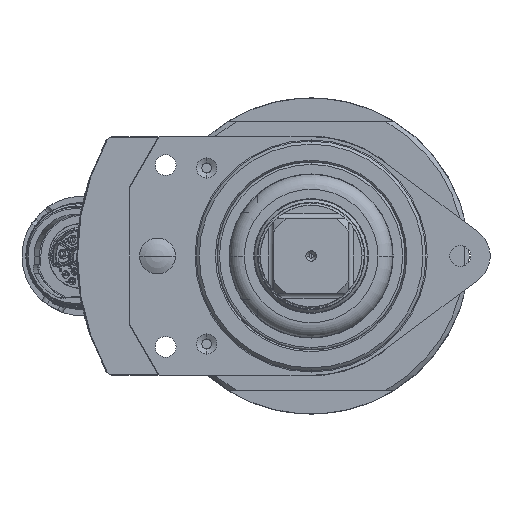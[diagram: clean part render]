
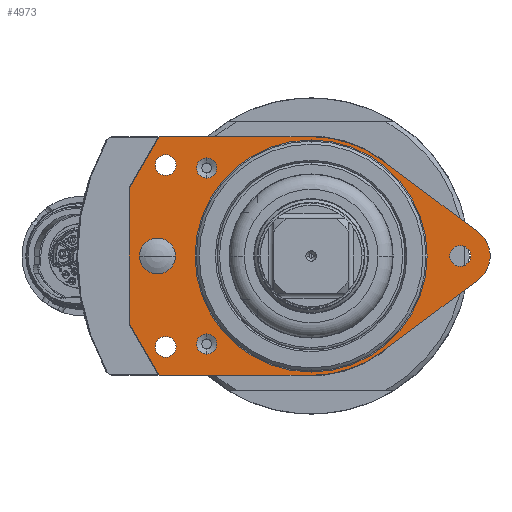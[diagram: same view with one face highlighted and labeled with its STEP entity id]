
A CAD part, left-side view. The second image highlights one B-rep face of the part: STEP entity #4973.
In plain terms, the highlighted planar face has unit normal (-1, 0, 0).
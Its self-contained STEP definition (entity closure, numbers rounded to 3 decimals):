
#1660=DIRECTION('',(0.,0.,1.));
#1661=VECTOR('',#1660,45.);
#1662=CARTESIAN_POINT('',(13.,61.,-22.5));
#1663=LINE('',#1662,#1661);
#1664=DIRECTION('',(0.,0.5,-0.866));
#1665=VECTOR('',#1664,20.207);
#1666=CARTESIAN_POINT('',(13.,50.896,40.));
#1667=LINE('',#1666,#1665);
#1668=DIRECTION('',(0.,1.,0.));
#1669=VECTOR('',#1668,50.896);
#1670=CARTESIAN_POINT('',(13.,0.,40.));
#1671=LINE('',#1670,#1669);
#1672=CARTESIAN_POINT('',(13.,0.,0.));
#1673=DIRECTION('',(-1.,0.,0.));
#1674=DIRECTION('',(0.,-0.6,0.8));
#1675=AXIS2_PLACEMENT_3D('',#1672,#1673,#1674);
#1677=DIRECTION('',(0.,0.8,0.6));
#1678=VECTOR('',#1677,40.);
#1679=CARTESIAN_POINT('',(13.,-56.,8.));
#1680=LINE('',#1679,#1678);
#1681=CARTESIAN_POINT('',(13.,-50.,0.));
#1682=DIRECTION('',(-1.,0.,0.));
#1683=DIRECTION('',(0.,-0.6,-0.8));
#1684=AXIS2_PLACEMENT_3D('',#1681,#1682,#1683);
#1686=DIRECTION('',(0.,-0.8,0.6));
#1687=VECTOR('',#1686,40.);
#1688=CARTESIAN_POINT('',(13.,-24.,-32.));
#1689=LINE('',#1688,#1687);
#1690=CARTESIAN_POINT('',(13.,0.,0.));
#1691=DIRECTION('',(-1.,0.,0.));
#1692=DIRECTION('',(0.,0.,-1.));
#1693=AXIS2_PLACEMENT_3D('',#1690,#1691,#1692);
#1695=DIRECTION('',(0.,-1.,0.));
#1696=VECTOR('',#1695,50.896);
#1697=CARTESIAN_POINT('',(13.,50.896,-40.));
#1698=LINE('',#1697,#1696);
#1699=DIRECTION('',(0.,-0.5,-0.866));
#1700=VECTOR('',#1699,20.207);
#1701=CARTESIAN_POINT('',(13.,61.,-22.5));
#1702=LINE('',#1701,#1700);
#1703=CARTESIAN_POINT('',(13.,-50.,0.));
#1704=DIRECTION('',(-1.,0.,0.));
#1705=DIRECTION('',(0.,0.,-1.));
#1706=AXIS2_PLACEMENT_3D('',#1703,#1704,#1705);
#1708=CARTESIAN_POINT('',(13.,-50.,0.));
#1709=DIRECTION('',(-1.,0.,0.));
#1710=DIRECTION('',(0.,0.,1.));
#1711=AXIS2_PLACEMENT_3D('',#1708,#1709,#1710);
#1713=CARTESIAN_POINT('',(13.,48.763,30.47));
#1714=DIRECTION('',(-1.,0.,0.));
#1715=DIRECTION('',(0.,0.,-1.));
#1716=AXIS2_PLACEMENT_3D('',#1713,#1714,#1715);
#1718=CARTESIAN_POINT('',(13.,48.763,30.47));
#1719=DIRECTION('',(-1.,0.,0.));
#1720=DIRECTION('',(0.,0.,1.));
#1721=AXIS2_PLACEMENT_3D('',#1718,#1719,#1720);
#1723=CARTESIAN_POINT('',(13.,48.763,-30.47));
#1724=DIRECTION('',(-1.,0.,0.));
#1725=DIRECTION('',(0.,0.,-1.));
#1726=AXIS2_PLACEMENT_3D('',#1723,#1724,#1725);
#1728=CARTESIAN_POINT('',(13.,48.763,-30.47));
#1729=DIRECTION('',(-1.,0.,0.));
#1730=DIRECTION('',(0.,0.,1.));
#1731=AXIS2_PLACEMENT_3D('',#1728,#1729,#1730);
#1733=CARTESIAN_POINT('',(13.,35.,-29.5));
#1734=DIRECTION('',(-1.,0.,0.));
#1735=DIRECTION('',(0.,0.,-1.));
#1736=AXIS2_PLACEMENT_3D('',#1733,#1734,#1735);
#1738=CARTESIAN_POINT('',(13.,35.,-29.5));
#1739=DIRECTION('',(-1.,0.,0.));
#1740=DIRECTION('',(0.,0.,1.));
#1741=AXIS2_PLACEMENT_3D('',#1738,#1739,#1740);
#1743=CARTESIAN_POINT('',(13.,35.,29.5));
#1744=DIRECTION('',(-1.,0.,0.));
#1745=DIRECTION('',(0.,0.,-1.));
#1746=AXIS2_PLACEMENT_3D('',#1743,#1744,#1745);
#1748=CARTESIAN_POINT('',(13.,35.,29.5));
#1749=DIRECTION('',(-1.,0.,0.));
#1750=DIRECTION('',(0.,0.,1.));
#1751=AXIS2_PLACEMENT_3D('',#1748,#1749,#1750);
#1753=CARTESIAN_POINT('',(13.,51.5,0.));
#1754=DIRECTION('',(-1.,0.,0.));
#1755=DIRECTION('',(0.,0.,-1.));
#1756=AXIS2_PLACEMENT_3D('',#1753,#1754,#1755);
#1758=CARTESIAN_POINT('',(13.,51.5,0.));
#1759=DIRECTION('',(-1.,0.,0.));
#1760=DIRECTION('',(0.,0.,1.));
#1761=AXIS2_PLACEMENT_3D('',#1758,#1759,#1760);
#1763=CARTESIAN_POINT('',(13.,0.,0.));
#1764=DIRECTION('',(-1.,0.,0.));
#1765=DIRECTION('',(0.,0.,-1.));
#1766=AXIS2_PLACEMENT_3D('',#1763,#1764,#1765);
#1768=CARTESIAN_POINT('',(13.,0.,0.));
#1769=DIRECTION('',(-1.,0.,0.));
#1770=DIRECTION('',(0.,0.,1.));
#1771=AXIS2_PLACEMENT_3D('',#1768,#1769,#1770);
#3259=CARTESIAN_POINT('',(13.,61.,22.5));
#3260=CARTESIAN_POINT('',(13.,61.,-22.5));
#3261=VERTEX_POINT('',#3259);
#3262=VERTEX_POINT('',#3260);
#3263=CARTESIAN_POINT('',(13.,50.896,-40.));
#3264=CARTESIAN_POINT('',(13.,0.,-40.));
#3265=VERTEX_POINT('',#3263);
#3266=VERTEX_POINT('',#3264);
#3267=CARTESIAN_POINT('',(13.,-24.,-32.));
#3268=VERTEX_POINT('',#3267);
#3269=CARTESIAN_POINT('',(13.,-56.,-8.));
#3270=VERTEX_POINT('',#3269);
#3271=CARTESIAN_POINT('',(13.,-56.,8.));
#3272=VERTEX_POINT('',#3271);
#3273=CARTESIAN_POINT('',(13.,-24.,32.));
#3274=VERTEX_POINT('',#3273);
#3275=CARTESIAN_POINT('',(13.,0.,40.));
#3276=VERTEX_POINT('',#3275);
#3277=CARTESIAN_POINT('',(13.,50.896,40.));
#3278=VERTEX_POINT('',#3277);
#3279=CARTESIAN_POINT('',(13.,-50.,-3.5));
#3280=CARTESIAN_POINT('',(13.,-50.,3.5));
#3281=VERTEX_POINT('',#3279);
#3282=VERTEX_POINT('',#3280);
#3283=CARTESIAN_POINT('',(13.,48.763,26.97));
#3284=CARTESIAN_POINT('',(13.,48.763,33.97));
#3285=VERTEX_POINT('',#3283);
#3286=VERTEX_POINT('',#3284);
#3287=CARTESIAN_POINT('',(13.,48.763,-33.97));
#3288=CARTESIAN_POINT('',(13.,48.763,-26.97));
#3289=VERTEX_POINT('',#3287);
#3290=VERTEX_POINT('',#3288);
#3291=CARTESIAN_POINT('',(13.,35.,-32.9));
#3292=CARTESIAN_POINT('',(13.,35.,-26.1));
#3293=VERTEX_POINT('',#3291);
#3294=VERTEX_POINT('',#3292);
#3295=CARTESIAN_POINT('',(13.,35.,26.1));
#3296=CARTESIAN_POINT('',(13.,35.,32.9));
#3297=VERTEX_POINT('',#3295);
#3298=VERTEX_POINT('',#3296);
#3303=CARTESIAN_POINT('',(13.,51.5,-6.));
#3304=CARTESIAN_POINT('',(13.,51.5,6.));
#3305=VERTEX_POINT('',#3303);
#3306=VERTEX_POINT('',#3304);
#3325=CARTESIAN_POINT('',(13.,0.,-38.9));
#3326=CARTESIAN_POINT('',(13.,0.,38.9));
#3327=VERTEX_POINT('',#3325);
#3328=VERTEX_POINT('',#3326);
#4904=CARTESIAN_POINT('',(13.,0.,0.));
#4905=DIRECTION('',(-1.,0.,0.));
#4906=DIRECTION('',(0.,0.,-1.));
#4907=AXIS2_PLACEMENT_3D('',#4904,#4905,#4906);
#4908=PLANE('',#4907);
#4910=ORIENTED_EDGE('',*,*,#4909,.T.);
#4912=ORIENTED_EDGE('',*,*,#4911,.F.);
#4914=ORIENTED_EDGE('',*,*,#4913,.F.);
#4916=ORIENTED_EDGE('',*,*,#4915,.F.);
#4918=ORIENTED_EDGE('',*,*,#4917,.F.);
#4920=ORIENTED_EDGE('',*,*,#4919,.F.);
#4922=ORIENTED_EDGE('',*,*,#4921,.F.);
#4924=ORIENTED_EDGE('',*,*,#4923,.F.);
#4926=ORIENTED_EDGE('',*,*,#4925,.F.);
#4928=ORIENTED_EDGE('',*,*,#4927,.F.);
#4929=EDGE_LOOP('',(#4910,#4912,#4914,#4916,#4918,#4920,#4922,#4924,#4926,
#4928));
#4930=FACE_OUTER_BOUND('',#4929,.F.);
#4932=ORIENTED_EDGE('',*,*,#4931,.T.);
#4934=ORIENTED_EDGE('',*,*,#4933,.T.);
#4935=EDGE_LOOP('',(#4932,#4934));
#4936=FACE_BOUND('',#4935,.F.);
#4938=ORIENTED_EDGE('',*,*,#4937,.T.);
#4940=ORIENTED_EDGE('',*,*,#4939,.T.);
#4941=EDGE_LOOP('',(#4938,#4940));
#4942=FACE_BOUND('',#4941,.F.);
#4944=ORIENTED_EDGE('',*,*,#4943,.T.);
#4946=ORIENTED_EDGE('',*,*,#4945,.T.);
#4947=EDGE_LOOP('',(#4944,#4946));
#4948=FACE_BOUND('',#4947,.F.);
#4950=ORIENTED_EDGE('',*,*,#4949,.T.);
#4952=ORIENTED_EDGE('',*,*,#4951,.T.);
#4953=EDGE_LOOP('',(#4950,#4952));
#4954=FACE_BOUND('',#4953,.F.);
#4956=ORIENTED_EDGE('',*,*,#4955,.T.);
#4958=ORIENTED_EDGE('',*,*,#4957,.T.);
#4959=EDGE_LOOP('',(#4956,#4958));
#4960=FACE_BOUND('',#4959,.F.);
#4962=ORIENTED_EDGE('',*,*,#4961,.T.);
#4964=ORIENTED_EDGE('',*,*,#4963,.T.);
#4965=EDGE_LOOP('',(#4962,#4964));
#4966=FACE_BOUND('',#4965,.F.);
#4968=ORIENTED_EDGE('',*,*,#4967,.T.);
#4970=ORIENTED_EDGE('',*,*,#4969,.T.);
#4971=EDGE_LOOP('',(#4968,#4970));
#4972=FACE_BOUND('',#4971,.F.);
#4973=ADVANCED_FACE('',(#4930,#4936,#4942,#4948,#4954,#4960,#4966,#4972),#4908,
.T.);
#1676=CIRCLE('',#1675,40.);
#1685=CIRCLE('',#1684,10.);
#1694=CIRCLE('',#1693,40.);
#1707=CIRCLE('',#1706,3.5);
#1712=CIRCLE('',#1711,3.5);
#1717=CIRCLE('',#1716,3.5);
#1722=CIRCLE('',#1721,3.5);
#1727=CIRCLE('',#1726,3.5);
#1732=CIRCLE('',#1731,3.5);
#1737=CIRCLE('',#1736,3.4);
#1742=CIRCLE('',#1741,3.4);
#1747=CIRCLE('',#1746,3.4);
#1752=CIRCLE('',#1751,3.4);
#1757=CIRCLE('',#1756,6.);
#1762=CIRCLE('',#1761,6.);
#1767=CIRCLE('',#1766,38.9);
#1772=CIRCLE('',#1771,38.9);
#4909=EDGE_CURVE('',#3262,#3261,#1663,.T.);
#4911=EDGE_CURVE('',#3278,#3261,#1667,.T.);
#4913=EDGE_CURVE('',#3276,#3278,#1671,.T.);
#4915=EDGE_CURVE('',#3274,#3276,#1676,.T.);
#4917=EDGE_CURVE('',#3272,#3274,#1680,.T.);
#4919=EDGE_CURVE('',#3270,#3272,#1685,.T.);
#4921=EDGE_CURVE('',#3268,#3270,#1689,.T.);
#4923=EDGE_CURVE('',#3266,#3268,#1694,.T.);
#4925=EDGE_CURVE('',#3265,#3266,#1698,.T.);
#4927=EDGE_CURVE('',#3262,#3265,#1702,.T.);
#4931=EDGE_CURVE('',#3281,#3282,#1707,.T.);
#4933=EDGE_CURVE('',#3282,#3281,#1712,.T.);
#4937=EDGE_CURVE('',#3285,#3286,#1717,.T.);
#4939=EDGE_CURVE('',#3286,#3285,#1722,.T.);
#4943=EDGE_CURVE('',#3289,#3290,#1727,.T.);
#4945=EDGE_CURVE('',#3290,#3289,#1732,.T.);
#4949=EDGE_CURVE('',#3293,#3294,#1737,.T.);
#4951=EDGE_CURVE('',#3294,#3293,#1742,.T.);
#4955=EDGE_CURVE('',#3297,#3298,#1747,.T.);
#4957=EDGE_CURVE('',#3298,#3297,#1752,.T.);
#4961=EDGE_CURVE('',#3305,#3306,#1757,.T.);
#4963=EDGE_CURVE('',#3306,#3305,#1762,.T.);
#4967=EDGE_CURVE('',#3327,#3328,#1767,.T.);
#4969=EDGE_CURVE('',#3328,#3327,#1772,.T.);
